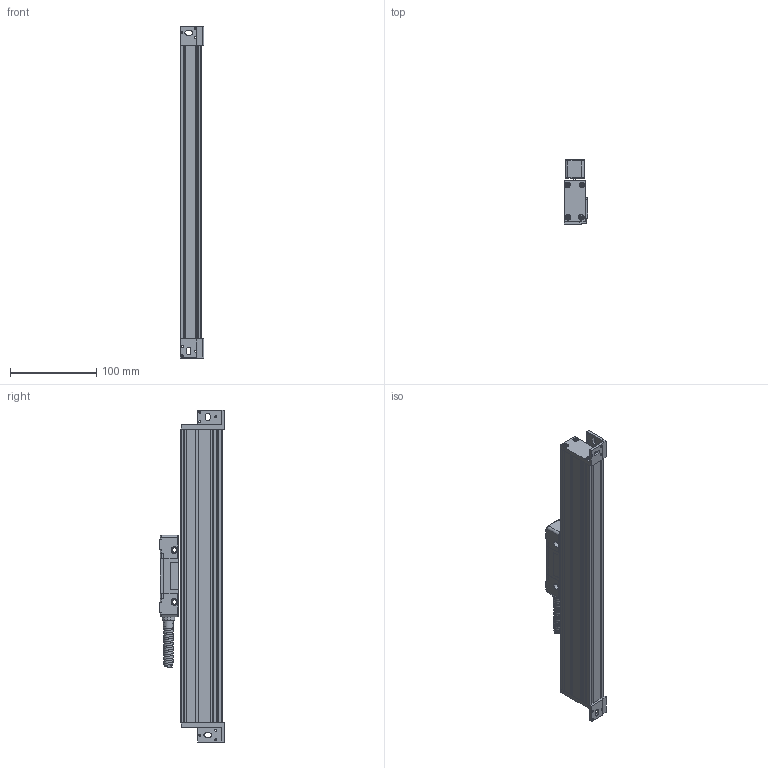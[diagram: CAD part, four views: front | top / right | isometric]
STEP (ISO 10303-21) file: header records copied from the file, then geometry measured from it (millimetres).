
FILE_DESCRIPTION (( 'STEP AP214' ), '1' );
FILE_NAME ('MLC310x0220.STEP', '2021-05-08T11:47:03', ( '' ), ( '' ), 'SwSTEP 2.0', 'SolidWorks 2014', '' );
FILE_SCHEMA (( 'AUTOMOTIVE_DESIGN' ));
Length unit declared in the file: millimetre
Products named in the file (1): MLC310x0220
Bounding box: 27 x 75.15 x 384 mm (x, y, z)
Surface area: 81948.2 mm2 (no closed solid volume)
Topology: 0 solids, 20 shells, 471 faces, 1726 edges, 1262 vertices
Faces by surface type: plane 189, cylinder 155, cone 83, bspline 36, torus 8
Entity records: 34500 total; most frequent: CARTESIAN_POINT 14785, DIRECTION 2962, ORIENTED_EDGE 2865, EDGE_CURVE 1718, VERTEX_POINT 1262, AXIS2_PLACEMENT_3D 1030, VECTOR 902, LINE 902
